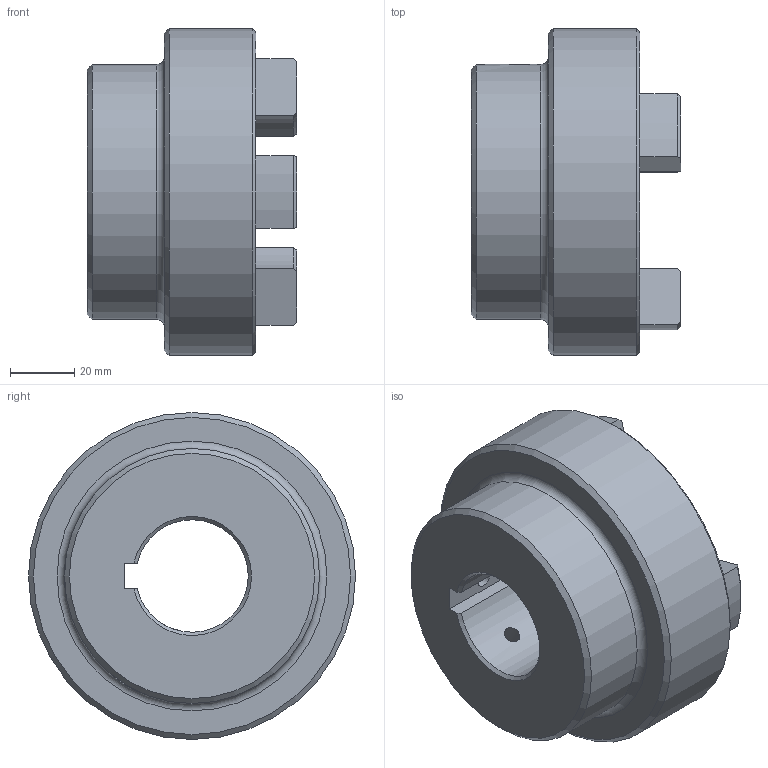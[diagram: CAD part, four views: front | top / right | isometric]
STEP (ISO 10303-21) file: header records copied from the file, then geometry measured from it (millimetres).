
FILE_DESCRIPTION (( 'STEP AP203' ), '1' );
FILE_NAME ('RC4.step', '2024-07-24T17:41:42', ( 'Adlan' ), ( '' ), 'SwSTEP 2.0', 'SolidWorks 2013', '' );
FILE_SCHEMA (( 'CONFIG_CONTROL_DESIGN' ));
Length unit declared in the file: inch
Products named in the file (1): RC4
Bounding box: 65.02 x 101.6 x 101.6 mm (x, y, z)
Volume: 242396.4 mm3; surface area: 41289.6 mm2
Topology: 1 solids, 1 shells, 67 faces, 168 edges, 105 vertices
Faces by surface type: cylinder 26, plane 16, torus 13, cone 12
Full cylindrical faces by diameter (mm): 5.105 x2, 79.248 x1, 101.6 x1
Entity records: 2245 total; most frequent: CARTESIAN_POINT 570, DIRECTION 354, ORIENTED_EDGE 310, EDGE_CURVE 155, AXIS2_PLACEMENT_3D 142, VERTEX_POINT 102, EDGE_LOOP 85, CIRCLE 74
